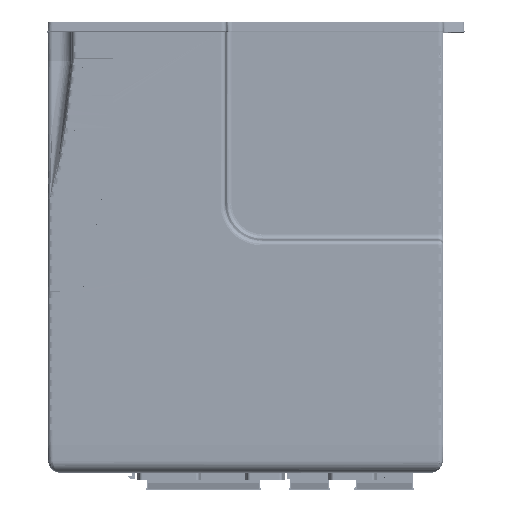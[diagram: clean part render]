
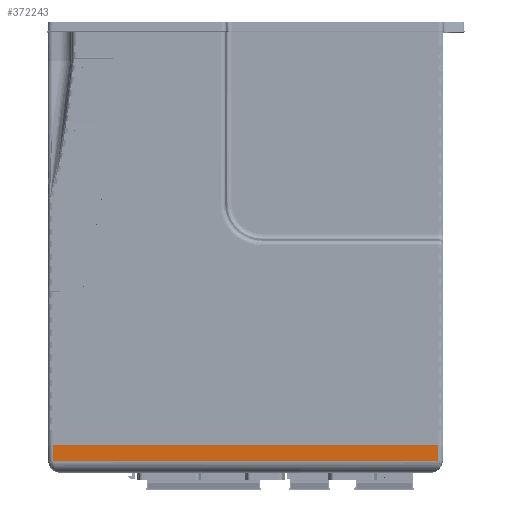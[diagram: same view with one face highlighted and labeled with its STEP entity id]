
A CAD part, top view. The second image highlights one B-rep face of the part: STEP entity #372243.
In plain terms, the highlighted planar face has unit normal (0, 0.039, -0.999).
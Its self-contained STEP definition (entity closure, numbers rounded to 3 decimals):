
#364956=DIRECTION('',(0.035,-0.999,-0.039));
#364957=VECTOR('',#364956,6.683);
#364958=CARTESIAN_POINT('',(-79.651,-80.554,
48.3));
#364959=LINE('',#364958,#364957);
#364963=DIRECTION('',(0.035,0.999,0.039));
#364964=VECTOR('',#364963,6.683);
#364965=CARTESIAN_POINT('',(79.418,-87.227,
48.038));
#364966=LINE('',#364965,#364964);
#364970=DIRECTION('',(-1.,0.,0.));
#364971=VECTOR('',#364970,159.302);
#364972=CARTESIAN_POINT('',(79.651,-80.554,
48.3));
#364973=LINE('',#364972,#364971);
#366547=DIRECTION('',(-1.,0.,0.));
#366548=VECTOR('',#366547,158.836);
#366549=CARTESIAN_POINT('',(79.418,-87.227,
48.038));
#366550=LINE('',#366549,#366548);
#371578=CARTESIAN_POINT('',(-79.651,-80.554,
48.3));
#371579=CARTESIAN_POINT('',(-79.418,-87.227,
48.038));
#371580=VERTEX_POINT('',#371578);
#371581=VERTEX_POINT('',#371579);
#371582=CARTESIAN_POINT('',(79.418,-87.227,
48.038));
#371583=CARTESIAN_POINT('',(79.651,-80.554,
48.3));
#371584=VERTEX_POINT('',#371582);
#371585=VERTEX_POINT('',#371583);
#372230=CARTESIAN_POINT('',(0.,-83.89,48.169));
#372231=DIRECTION('',(0.,-0.039,0.999));
#372232=DIRECTION('',(0.,-0.999,-0.039));
#372233=AXIS2_PLACEMENT_3D('',#372230,#372231,#372232);
#372234=PLANE('',#372233);
#372236=ORIENTED_EDGE('',*,*,#372235,.T.);
#372238=ORIENTED_EDGE('',*,*,#372237,.F.);
#372239=ORIENTED_EDGE('',*,*,#372220,.T.);
#372240=ORIENTED_EDGE('',*,*,#372160,.T.);
#372241=EDGE_LOOP('',(#372236,#372238,#372239,#372240));
#372242=FACE_OUTER_BOUND('',#372241,.F.);
#372160=EDGE_CURVE('',#371585,#371580,#364973,.T.);
#372220=EDGE_CURVE('',#371584,#371585,#364966,.T.);
#372235=EDGE_CURVE('',#371580,#371581,#364959,.T.);
#372237=EDGE_CURVE('',#371584,#371581,#366550,.T.);
#372243=ADVANCED_FACE('',(#372242),#372234,.F.);
